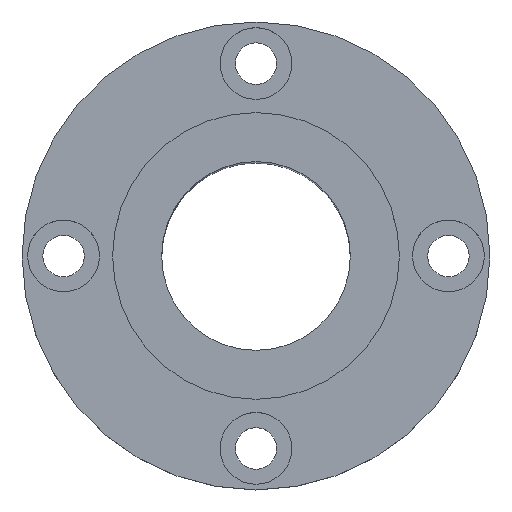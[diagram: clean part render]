
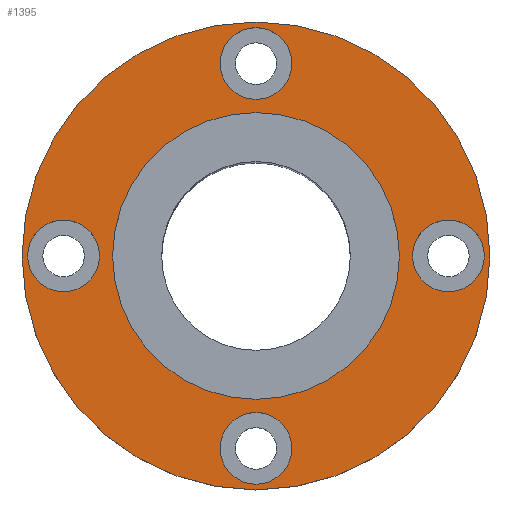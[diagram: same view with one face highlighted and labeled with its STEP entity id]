
A CAD part, top view. The second image highlights one B-rep face of the part: STEP entity #1395.
In plain terms, the highlighted planar face has unit normal (0, 0, 1).
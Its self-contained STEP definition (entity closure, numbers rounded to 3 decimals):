
#133=CARTESIAN_POINT('',(-19.0,0.,56.0));
#134=VERTEX_POINT('',#133);
#143=CARTESIAN_POINT('',(19.0,0.,56.));
#144=VERTEX_POINT('',#143);
#145=CARTESIAN_POINT('',(0.0,0.0,56.));
#146=DIRECTION('',(0.0,0.0,-1.0));
#147=DIRECTION('',(-1.0,0.0,0.0));
#148=AXIS2_PLACEMENT_3D('',#145,#146,#147);
#149=CIRCLE('',#148,19.0);
#150=EDGE_CURVE('',#144,#134,#149,.T.);
#217=CARTESIAN_POINT('',(-31.0,0.,56.));
#218=VERTEX_POINT('',#217);
#227=CARTESIAN_POINT('',(31.0,0.,56.));
#228=VERTEX_POINT('',#227);
#229=CARTESIAN_POINT('',(0.0,0.0,56.));
#230=DIRECTION('',(0.0,0.0,-1.0));
#231=DIRECTION('',(-1.0,0.0,0.0));
#232=AXIS2_PLACEMENT_3D('',#229,#230,#231);
#233=CIRCLE('',#232,31.0);
#234=EDGE_CURVE('',#218,#228,#233,.T.);
#345=CARTESIAN_POINT('',(30.25,0.0,56.));
#346=VERTEX_POINT('',#345);
#362=CARTESIAN_POINT('',(20.75,0.,56.0));
#363=VERTEX_POINT('',#362);
#370=CARTESIAN_POINT('',(25.5,0.0,56.));
#371=DIRECTION('',(0.0,0.0,-1.0));
#372=DIRECTION('',(1.0,0.0,0.0));
#373=AXIS2_PLACEMENT_3D('',#370,#371,#372);
#374=CIRCLE('',#373,4.75);
#375=EDGE_CURVE('',#346,#363,#374,.T.);
#471=CARTESIAN_POINT('',(0.,30.25,56.));
#472=VERTEX_POINT('',#471);
#488=CARTESIAN_POINT('',(0.,20.75,56.0));
#489=VERTEX_POINT('',#488);
#496=CARTESIAN_POINT('',(0.,25.5,56.));
#497=DIRECTION('',(0.0,0.0,-1.0));
#498=DIRECTION('',(0.0,1.0,0.0));
#499=AXIS2_PLACEMENT_3D('',#496,#497,#498);
#500=CIRCLE('',#499,4.75);
#501=EDGE_CURVE('',#472,#489,#500,.T.);
#597=CARTESIAN_POINT('',(-30.25,0.,56.));
#598=VERTEX_POINT('',#597);
#614=CARTESIAN_POINT('',(-20.75,0.,56.0));
#615=VERTEX_POINT('',#614);
#622=CARTESIAN_POINT('',(-25.5,0.,56.));
#623=DIRECTION('',(0.0,0.0,-1.0));
#624=DIRECTION('',(-1.0,0.0,0.0));
#625=AXIS2_PLACEMENT_3D('',#622,#623,#624);
#626=CIRCLE('',#625,4.75);
#627=EDGE_CURVE('',#598,#615,#626,.T.);
#723=CARTESIAN_POINT('',(0.,-30.25,56.));
#724=VERTEX_POINT('',#723);
#740=CARTESIAN_POINT('',(0.,-20.75,56.0));
#741=VERTEX_POINT('',#740);
#748=CARTESIAN_POINT('',(0.,-25.5,56.));
#749=DIRECTION('',(0.0,0.0,-1.0));
#750=DIRECTION('',(0.0,-1.0,0.0));
#751=AXIS2_PLACEMENT_3D('',#748,#749,#750);
#752=CIRCLE('',#751,4.75);
#753=EDGE_CURVE('',#724,#741,#752,.T.);
#811=CARTESIAN_POINT('',(0.,-25.5,56.));
#812=DIRECTION('',(0.0,0.0,-1.0));
#813=DIRECTION('',(0.0,-1.0,0.0));
#814=AXIS2_PLACEMENT_3D('',#811,#812,#813);
#815=CIRCLE('',#814,4.75);
#816=EDGE_CURVE('',#741,#724,#815,.T.);
#915=CARTESIAN_POINT('',(-25.5,0.,56.));
#916=DIRECTION('',(0.0,0.0,-1.0));
#917=DIRECTION('',(-1.0,0.0,0.0));
#918=AXIS2_PLACEMENT_3D('',#915,#916,#917);
#919=CIRCLE('',#918,4.75);
#920=EDGE_CURVE('',#615,#598,#919,.T.);
#1019=CARTESIAN_POINT('',(0.,25.5,56.));
#1020=DIRECTION('',(0.0,0.0,-1.0));
#1021=DIRECTION('',(0.0,1.0,0.0));
#1022=AXIS2_PLACEMENT_3D('',#1019,#1020,#1021);
#1023=CIRCLE('',#1022,4.75);
#1024=EDGE_CURVE('',#489,#472,#1023,.T.);
#1123=CARTESIAN_POINT('',(25.5,0.0,56.));
#1124=DIRECTION('',(0.0,0.0,-1.0));
#1125=DIRECTION('',(1.0,0.0,0.0));
#1126=AXIS2_PLACEMENT_3D('',#1123,#1124,#1125);
#1127=CIRCLE('',#1126,4.75);
#1128=EDGE_CURVE('',#363,#346,#1127,.T.);
#1188=CARTESIAN_POINT('',(0.0,0.0,56.));
#1189=DIRECTION('',(0.0,0.0,-1.0));
#1190=DIRECTION('',(-1.0,0.0,0.0));
#1191=AXIS2_PLACEMENT_3D('',#1188,#1189,#1190);
#1192=CIRCLE('',#1191,31.0);
#1193=EDGE_CURVE('',#228,#218,#1192,.T.);
#1306=CARTESIAN_POINT('',(0.0,0.0,56.));
#1307=DIRECTION('',(0.0,0.0,-1.0));
#1308=DIRECTION('',(-1.0,0.0,0.0));
#1309=AXIS2_PLACEMENT_3D('',#1306,#1307,#1308);
#1310=CIRCLE('',#1309,19.0);
#1311=EDGE_CURVE('',#134,#144,#1310,.T.);
#1366=CARTESIAN_POINT('',(0.0,0.0,56.));
#1367=DIRECTION('',(0.0,0.0,-1.0));
#1368=DIRECTION('',(-1.0,0.0,0.0));
#1369=AXIS2_PLACEMENT_3D('',#1366,#1367,#1368);
#1370=PLANE('',#1369);
#1371=ORIENTED_EDGE('',*,*,#1193,.F.);
#1372=ORIENTED_EDGE('',*,*,#234,.F.);
#1373=EDGE_LOOP('',(#1371,#1372));
#1374=FACE_OUTER_BOUND('',#1373,.T.);
#1375=ORIENTED_EDGE('',*,*,#753,.T.);
#1376=ORIENTED_EDGE('',*,*,#816,.T.);
#1377=EDGE_LOOP('',(#1375,#1376));
#1378=FACE_BOUND('',#1377,.T.);
#1379=ORIENTED_EDGE('',*,*,#627,.T.);
#1380=ORIENTED_EDGE('',*,*,#920,.T.);
#1381=EDGE_LOOP('',(#1379,#1380));
#1382=FACE_BOUND('',#1381,.T.);
#1383=ORIENTED_EDGE('',*,*,#501,.T.);
#1384=ORIENTED_EDGE('',*,*,#1024,.T.);
#1385=EDGE_LOOP('',(#1383,#1384));
#1386=FACE_BOUND('',#1385,.T.);
#1387=ORIENTED_EDGE('',*,*,#375,.T.);
#1388=ORIENTED_EDGE('',*,*,#1128,.T.);
#1389=EDGE_LOOP('',(#1387,#1388));
#1390=FACE_BOUND('',#1389,.T.);
#1391=ORIENTED_EDGE('',*,*,#150,.T.);
#1392=ORIENTED_EDGE('',*,*,#1311,.T.);
#1393=EDGE_LOOP('',(#1391,#1392));
#1394=FACE_BOUND('',#1393,.T.);
#1395=ADVANCED_FACE('',(#1374,#1378,#1382,#1386,#1390,#1394),#1370,.F.);
